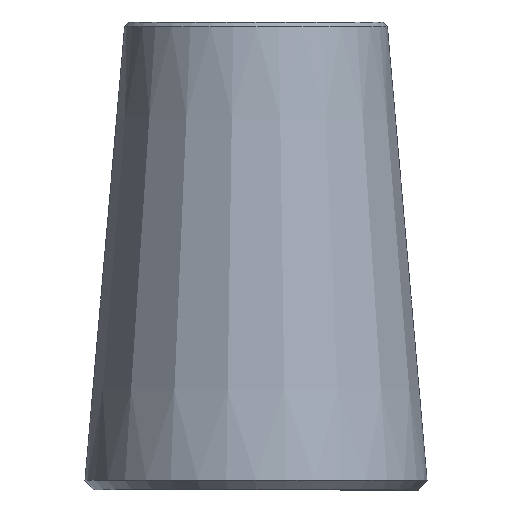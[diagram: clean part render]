
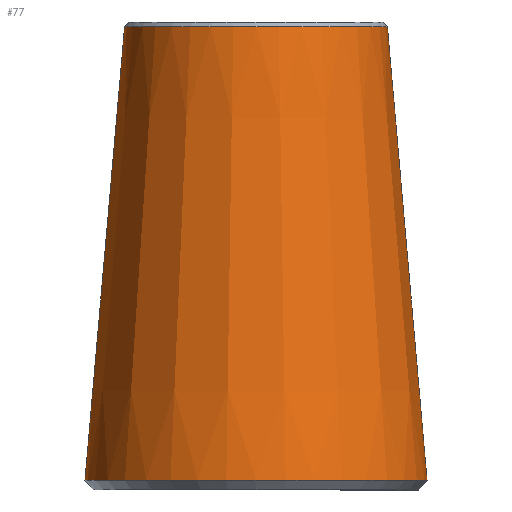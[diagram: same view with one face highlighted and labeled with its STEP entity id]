
A CAD part, left-side view. The second image highlights one B-rep face of the part: STEP entity #77.
In plain terms, the highlighted conical face has half-angle 5 degrees and reference radius 31.713 mm.
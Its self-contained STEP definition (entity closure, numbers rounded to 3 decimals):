
#20=FACE_BOUND('',#34,.T.);
#25=FACE_OUTER_BOUND('',#33,.T.);
#33=EDGE_LOOP('',(#63));
#34=EDGE_LOOP('',(#64));
#44=CIRCLE('',#87,35.826);
#45=CIRCLE('',#89,27.513);
#50=VERTEX_POINT('',#130);
#51=VERTEX_POINT('',#133);
#56=EDGE_CURVE('',#50,#50,#44,.T.);
#57=EDGE_CURVE('',#51,#51,#45,.T.);
#63=ORIENTED_EDGE('',*,*,#57,.F.);
#64=ORIENTED_EDGE('',*,*,#56,.F.);
#74=CONICAL_SURFACE('',#88,31.713,5.);
#77=ADVANCED_FACE('',(#25,#20),#74,.T.);
#87=AXIS2_PLACEMENT_3D('',#131,#104,#105);
#88=AXIS2_PLACEMENT_3D('',#132,#106,#107);
#89=AXIS2_PLACEMENT_3D('',#134,#108,#109);
#104=DIRECTION('center_axis',(0.,0.,
-1.));
#105=DIRECTION('ref_axis',(0.,1.,0.));
#106=DIRECTION('center_axis',(0.,0.,-1.));
#107=DIRECTION('ref_axis',(0.,-1.,0.));
#108=DIRECTION('center_axis',(0.,0.,1.));
#109=DIRECTION('ref_axis',(0.,1.,0.));
#130=CARTESIAN_POINT('',(0.,-35.826,1.992));
#131=CARTESIAN_POINT('Origin',(0.,0.,
1.992));
#132=CARTESIAN_POINT('Origin',(0.,0.,49.));
#133=CARTESIAN_POINT('',(0.,-27.513,97.004));
#134=CARTESIAN_POINT('Origin',(0.,0.,
97.004));
